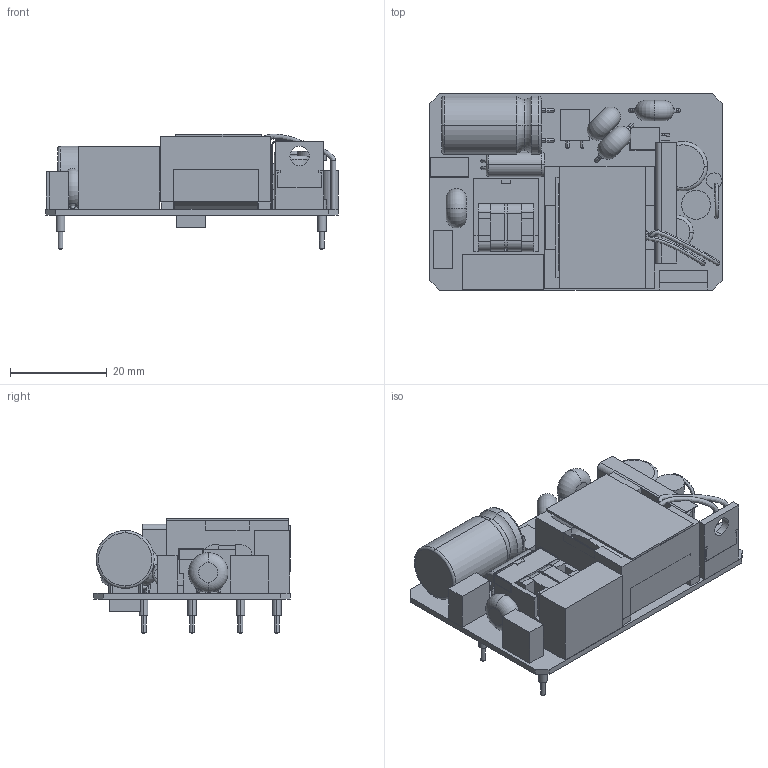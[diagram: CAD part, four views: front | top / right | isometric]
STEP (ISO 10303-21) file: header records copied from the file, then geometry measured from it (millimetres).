
FILE_DESCRIPTION (( 'STEP AP203' ), '1' );
FILE_NAME ('CFM21M.STEP', '2017-12-05T05:43:10', ( 'cincon' ), ( '' ), 'SwSTEP 2.0', 'SolidWorks 2017', '' );
FILE_SCHEMA (( 'CONFIG_CONTROL_DESIGN' ));
Length unit declared in the file: millimetre
Products named in the file (1): CFM21M
Bounding box: 60.45 x 40.64 x 23.93 mm (x, y, z)
Volume: 19005.9 mm3; surface area: 16560.2 mm2
Topology: 3 solids, 3 shells, 426 faces, 1127 edges, 720 vertices
Faces by surface type: plane 231, cylinder 102, bspline 45, torus 40, cone 8
Entity records: 24582 total; most frequent: CARTESIAN_POINT 14123, ORIENTED_EDGE 2254, DIRECTION 2033, EDGE_CURVE 1127, VERTEX_POINT 720, AXIS2_PLACEMENT_3D 687, VECTOR 659, LINE 659
